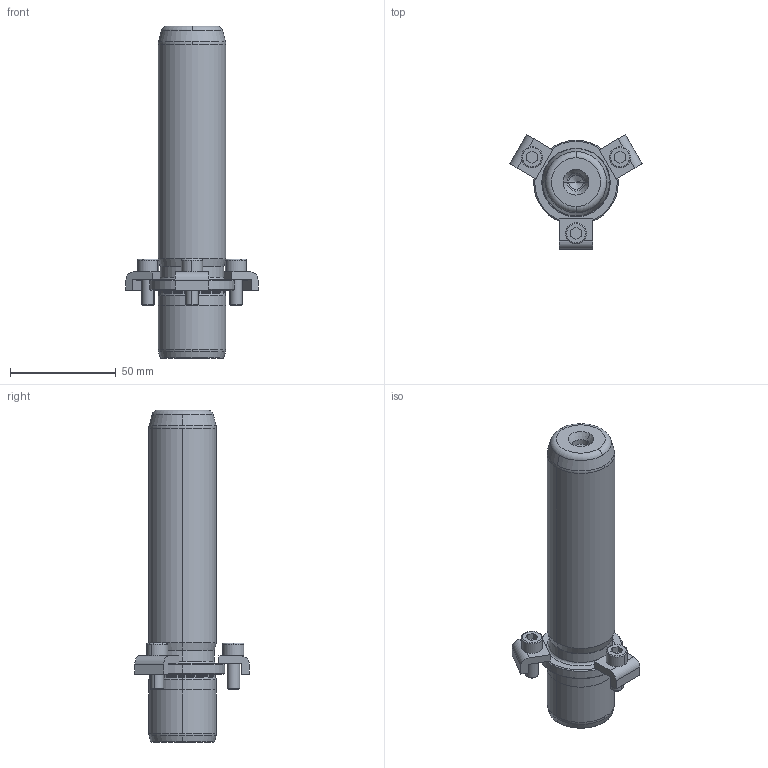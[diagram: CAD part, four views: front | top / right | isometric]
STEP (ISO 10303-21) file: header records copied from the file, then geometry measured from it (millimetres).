
FILE_DESCRIPTION((''),'2;1');
FILE_NAME('P21_032_125.stp','2008-12-23T10:33:14',(''),(''),'Mechanical Desktop 2009','Mechanical Desktop 2009',', , ');
FILE_SCHEMA(('CONFIG_CONTROL_DESIGN'));
Length unit declared in the file: millimetre
Products named in the file (2): Product; blmdl1
Assembly tree (1 placements, depth 2):
  Product
    blmdl1
Bounding box: 62.51 x 54.13 x 157 mm (x, y, z)
Volume: 129657.7 mm3; surface area: 23668.7 mm2
Topology: 7 solids, 7 shells, 163 faces, 399 edges, 257 vertices
Faces by surface type: plane 59, cylinder 44, cone 32, torus 14, bspline 14
Entity records: 5517 total; most frequent: CARTESIAN_POINT 1433, DIRECTION 908, ORIENTED_EDGE 790, EDGE_CURVE 395, AXIS2_PLACEMENT_3D 362, VERTEX_POINT 257, CIRCLE 211, VECTOR 184
